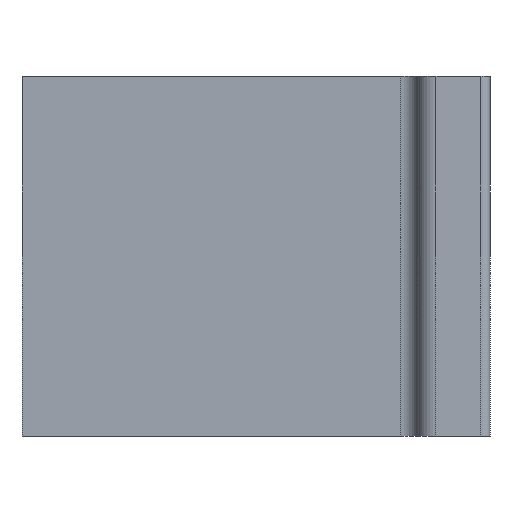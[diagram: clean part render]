
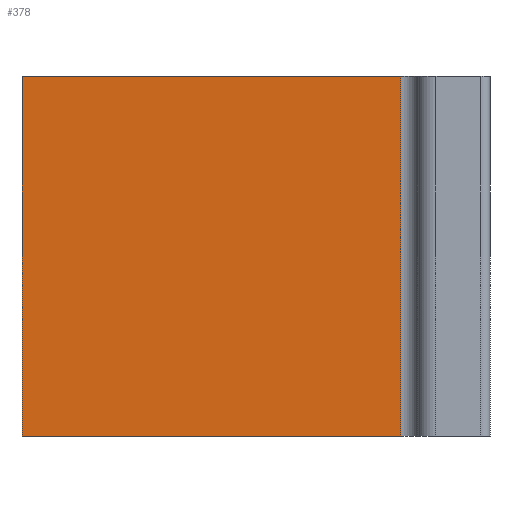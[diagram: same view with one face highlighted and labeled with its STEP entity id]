
A CAD part, left-side view. The second image highlights one B-rep face of the part: STEP entity #378.
In plain terms, the highlighted planar face has unit normal (-0.999, 0.035, 0).
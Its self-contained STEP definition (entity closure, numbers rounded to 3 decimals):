
#378 = ADVANCED_FACE( '', ( #1038 ), #1039, .T. );
#398 = EDGE_CURVE( '', #580, #870, #1061, .T. );
#580 = VERTEX_POINT( '', #1258 );
#712 = EDGE_CURVE( '', #936, #756, #1402, .T. );
#720 = EDGE_CURVE( '', #870, #756, #1410, .T. );
#756 = VERTEX_POINT( '', #1449 );
#830 = EDGE_CURVE( '', #580, #936, #1528, .T. );
#870 = VERTEX_POINT( '', #1574 );
#936 = VERTEX_POINT( '', #1645 );
#1038 = FACE_OUTER_BOUND( '', #1753, .T. );
#1039 = PLANE( '', #1754 );
#1061 = LINE( '', #1786, #1787 );
#1258 = CARTESIAN_POINT( '', ( -7., 0., 10. ) );
#1402 = LINE( '', #2250, #2251 );
#1410 = LINE( '', #2262, #2263 );
#1449 = CARTESIAN_POINT( '', ( -7.735, -21.035, -10. ) );
#1528 = LINE( '', #2422, #2423 );
#1574 = CARTESIAN_POINT( '', ( -7.735, -21.035, 10. ) );
#1645 = CARTESIAN_POINT( '', ( -7., 0., -10. ) );
#1753 = EDGE_LOOP( '', ( #2750, #2751, #2752, #2753 ) );
#1754 = AXIS2_PLACEMENT_3D( '', #2754, #2755, #2756 );
#1786 = CARTESIAN_POINT( '', ( -7., 0., 10. ) );
#1787 = VECTOR( '', #2785, 1. );
#2250 = CARTESIAN_POINT( '', ( -7., 0., -10. ) );
#2251 = VECTOR( '', #3143, 1. );
#2262 = CARTESIAN_POINT( '', ( -7.735, -21.035, 10. ) );
#2263 = VECTOR( '', #3145, 1. );
#2422 = CARTESIAN_POINT( '', ( -7., 0., 10. ) );
#2423 = VECTOR( '', #3259, 1. );
#2750 = ORIENTED_EDGE( '', *, *, #712, .T. );
#2751 = ORIENTED_EDGE( '', *, *, #720, .F. );
#2752 = ORIENTED_EDGE( '', *, *, #398, .F. );
#2753 = ORIENTED_EDGE( '', *, *, #830, .T. );
#2754 = CARTESIAN_POINT( '', ( -7., 0., 10. ) );
#2755 = DIRECTION( '', ( -0.999, 0.035, 0. ) );
#2756 = DIRECTION( '', ( 0.035, 0.999, 0. ) );
#2785 = DIRECTION( '', ( -0.035, -0.999, 0. ) );
#3143 = DIRECTION( '', ( -0.035, -0.999, 0. ) );
#3145 = DIRECTION( '', ( 0., 0., -1. ) );
#3259 = DIRECTION( '', ( 0., 0., -1. ) );
